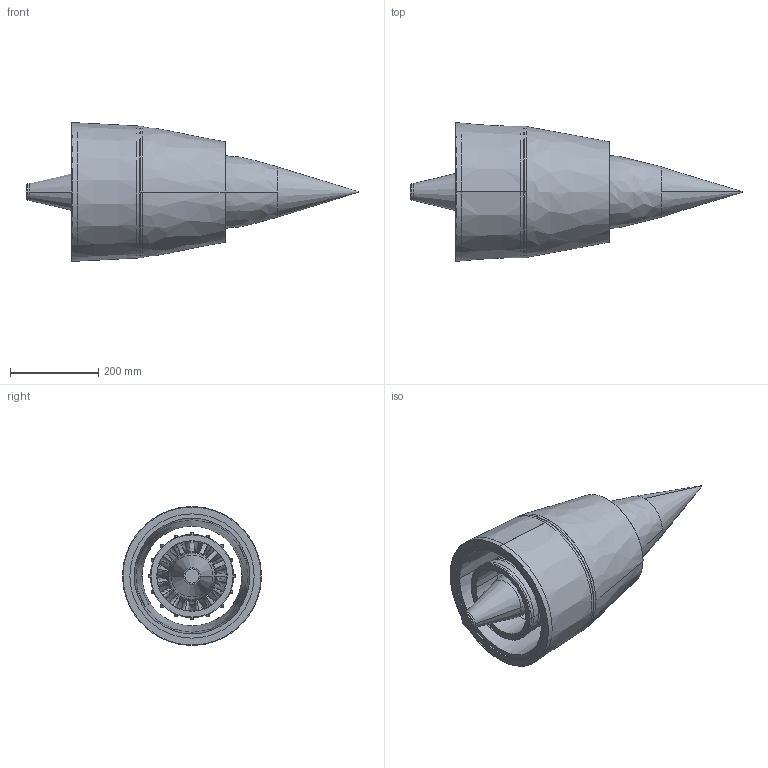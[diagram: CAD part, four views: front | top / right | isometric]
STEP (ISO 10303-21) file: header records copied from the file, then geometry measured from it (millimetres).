
FILE_DESCRIPTION (( 'STEP AP214' ), '1' );
FILE_NAME ('122DSm5p2069.STEP', '2020-09-16T15:00:44', ( '' ), ( '' ), 'SwSTEP 2.0', 'SolidWorks 2019', '' );
FILE_SCHEMA (( 'AUTOMOTIVE_DESIGN' ));
Length unit declared in the file: inch
Products named in the file (1): 122DSm5p2069
Bounding box: 750.49 x 314 x 314 mm (x, y, z)
Volume: 6549916.4 mm3; surface area: 1641074.4 mm2
Topology: 38 solids, 38 shells, 426 faces, 1010 edges, 670 vertices
Faces by surface type: bspline 270, plane 86, cylinder 34, cone 26, torus 10
Entity records: 94411 total; most frequent: CARTESIAN_POINT 80839, ORIENTED_EDGE 2020, EDGE_CURVE 1010, B_SPLINE_CURVE_WITH_KNOTS 814, VERTEX_POINT 670, DIRECTION 646, UNCERTAINTY_MEASURE_WITH_UNIT 466, DIMENSIONAL_EXPONENTS 466
